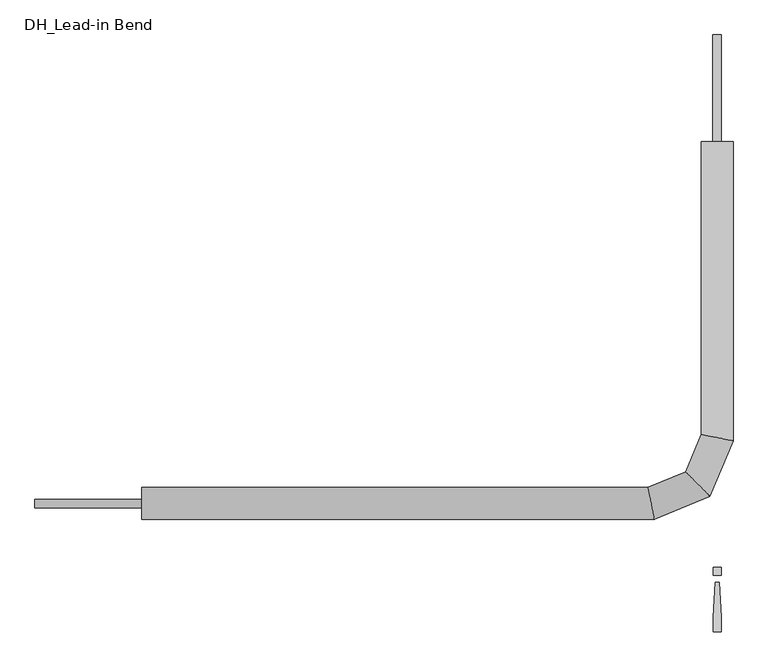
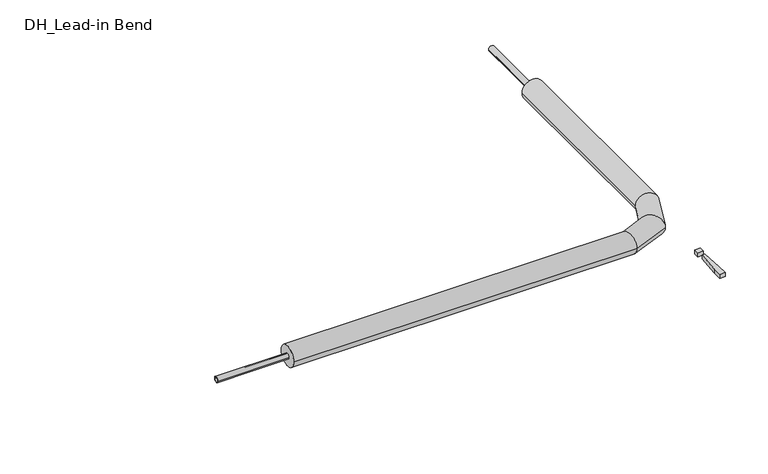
"""IFC4 building model written with IfcOpenShell, lengths in millimetres: pipe fitting geometry, DH_Lead-in Bend : RVT/RVX/RTX UNO 7.4 DW."""

from ifc_helpers import new_model, si_unit, point, frame, origin, origin_with_axes, origin_2d, place, context, project, spatial, polyline, circle_curve, ellipse_curve, trimmed, segment, composite_curve, outline, extrude, source, transform, mapped, element, save
from ifc_brep_helpers import plane_surface, cylinder_surface, advanced_brep


def dh_lead_in_bend_4b752211(model_context):
    return source(origin(), model_context, "Body", "SolidModel", [
        advanced_brep(
        [(-1350.0, -37.5, 0.0), (-1350.0, 37.5, 0.0), (-147.5407862, -37.5, 0.0), (-162.4592138, 37.5, 0.0), (37.5, 850.0, 0.0), (-37.5, 850.0, 0.0), (-37.5, 162.4592138, 0.0), (37.5, 147.5407862, 0.0), (-16.6971915, 16.6971915, 0.0), (-74.0997063, 74.0997063, 0.0)],
        [
            (0, 1, circle_curve(frame((-1350.0, 0.0, 0.0), z_axis=(-1.0, 0.0, 0.0), x_axis=(0.0, 1.0, 0.0)), 37.5)),
            (1, 0, circle_curve(frame((-1350.0, 0.0, 0.0), z_axis=(-1.0, 0.0, 0.0), x_axis=(0.0, 1.0, 0.0)), 37.5)),
            (0, 2),
            (2, 3, ellipse_curve(frame((-155.0, 0.0, 0.0), z_axis=(-0.9807852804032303, -0.19509032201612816, 0.0), x_axis=(-0.19509032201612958, 0.9807852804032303, 0.0)), 38.2346684, 37.5)),
            (3, 1),
            (3, 2, ellipse_curve(frame((-155.0, 0.0, 0.0), z_axis=(-0.9807852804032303, -0.19509032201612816, 0.0), x_axis=(-0.19509032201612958, 0.9807852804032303, 0.0)), 38.2346684, 37.5)),
            (4, 5, circle_curve(frame((0.0, 850.0, 0.0), z_axis=(0.0, 1.0, 0.0), x_axis=(-1.0, 0.0, 0.0)), 37.5)),
            (5, 4, circle_curve(frame((0.0, 850.0, 0.0), z_axis=(0.0, 1.0, 0.0), x_axis=(-1.0, 0.0, 0.0)), 37.5)),
            (6, 7, ellipse_curve(frame((0.0, 155.0, 0.0), z_axis=(0.1950903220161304, 0.9807852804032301, 0.0), x_axis=(0.9807852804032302, -0.1950903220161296, 0.0)), 38.2346684, 37.5)),
            (7, 4),
            (5, 6),
            (7, 6, ellipse_curve(frame((0.0, 155.0, 0.0), z_axis=(0.1950903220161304, 0.9807852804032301, 0.0), x_axis=(0.9807852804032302, -0.1950903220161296, 0.0)), 38.2346684, 37.5)),
            (2, 8),
            (8, 9, ellipse_curve(frame((-45.3984489, 45.3984489, 0.0), z_axis=(-0.707106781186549, -0.7071067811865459, 0.0), x_axis=(-0.7071067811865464, 0.7071067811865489, 0.0)), 40.5897075, 37.5)),
            (9, 3),
            (9, 8, ellipse_curve(frame((-45.3984489, 45.3984489, 0.0), z_axis=(-0.707106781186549, -0.7071067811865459, 0.0), x_axis=(-0.7071067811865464, 0.7071067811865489, 0.0)), 40.5897075, 37.5)),
            (8, 7),
            (6, 9),
        ],
        [
            plane_surface(frame((-1350.0, 0.0, 0.0), z_axis=(-1.0, 0.0, 0.0), x_axis=(0.0, 0.0, 1.0))),
            cylinder_surface(frame((-1350.0, 0.0, 0.0), z_axis=(-1.0, 0.0, 0.0), x_axis=(0.0, 1.0, 0.0)), 37.5),
            plane_surface(frame((0.0, 850.0, 0.0), z_axis=(0.0, 1.0, 0.0), x_axis=(0.0, 0.0, 1.0))),
            cylinder_surface(frame((0.0, 155.0, 0.0), z_axis=(0.0, -1.0, 0.0), x_axis=(-1.0, 0.0, 0.0)), 37.5),
            cylinder_surface(frame((-155.0, 0.0, 0.0), z_axis=(-0.9238795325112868, -0.38268343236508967, 0.0), x_axis=(-0.38268343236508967, 0.9238795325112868, 0.0)), 37.5),
            cylinder_surface(frame((-45.3984489, 45.3984489, 0.0), z_axis=(-0.3826834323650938, -0.9238795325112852, 0.0), x_axis=(-0.9238795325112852, 0.3826834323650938, 0.0)), 37.5),
        ],
        [
            (0, [[1, 2]]),
            (1, [[-1, 3, 4, 5]]),
            (1, [[-2, -5, 6, -3]]),
            (2, [[7, 8]]),
            (3, [[9, 10, -8, 11]]),
            (3, [[12, -11, -7, -10]]),
            (4, [[-4, 13, 14, 15]]),
            (4, [[-6, -15, 16, -13]]),
            (5, [[-14, 17, -9, 18]]),
            (5, [[-16, -18, -12, -17]]),
        ],
    ),
        extrude(outline(polyline([(4.7088895, -185.3166715), (9.4177791, -266.6553807), (9.4177791, -300.6844652), (-9.4177791, -300.6844652), (-9.4177791, -266.6553807), (-4.7088895, -185.3166715), (4.7088895, -185.3166715)])), origin_with_axes(), (0.0, 0.0, 1.0), 15.0),
        extrude(outline(polyline([(9.4177791, -150.0), (9.4177791, -168.8355582), (-9.4177791, -168.8355582), (-9.4177791, -150.0), (9.4177791, -150.0)])), origin_with_axes(), (0.0, 0.0, 1.0), 15.0),
        extrude(outline(composite_curve([segment(trimmed(circle_curve(origin_2d(), 10.0), [point((-10.0, 0.0))], [point((10.0, 0.0))], False, "CARTESIAN"), True, "CONTINUOUS"), segment(trimmed(circle_curve(origin_2d(), 10.0), [point((10.0, 0.0))], [point((-10.0, 0.0))], False, "CARTESIAN"), True, "CONTINUOUS")], self_intersect=False), holes=[composite_curve([segment(trimmed(circle_curve(origin_2d(), 7.2), [point((-7.2, 0.0))], [point((7.2, 0.0))], True, "CARTESIAN"), True, "CONTINUOUS"), segment(trimmed(circle_curve(origin_2d(), 7.2), [point((7.2, 0.0))], [point((-7.2, 0.0))], True, "CARTESIAN"), True, "CONTINUOUS")], self_intersect=False)]), frame((-1600.0, 0.0, 0.0), z_axis=(1.0, 0.0, 0.0), x_axis=(0.0, 1.0, 0.0)), (0.0, 0.0, 1.0), 250.0),
        extrude(outline(composite_curve([segment(trimmed(circle_curve(origin_2d(), 10.0), [point((0.0, 10.0))], [point((0.0, -10.0))], False, "CARTESIAN"), True, "CONTINUOUS"), segment(trimmed(circle_curve(origin_2d(), 10.0), [point((0.0, -10.0))], [point((0.0, 10.0))], False, "CARTESIAN"), True, "CONTINUOUS")], self_intersect=False), holes=[composite_curve([segment(trimmed(circle_curve(origin_2d(), 7.2), [point((0.0, 7.2))], [point((0.0, -7.2))], True, "CARTESIAN"), True, "CONTINUOUS"), segment(trimmed(circle_curve(origin_2d(), 7.2), [point((0.0, -7.2))], [point((0.0, 7.2))], True, "CARTESIAN"), True, "CONTINUOUS")], self_intersect=False)]), frame((0.0, 850.0, 0.0), z_axis=(0.0, 1.0, 0.0), x_axis=(0.0, 0.0, 1.0)), (0.0, 0.0, 1.0), 250.0),
    ])


if __name__ == "__main__":
    model = new_model("IFC4")
    model_context = context("Model", 3, world=origin())
    ifc_project = project(units=[si_unit("LENGTHUNIT", "METRE", prefix="MILLI")], contexts=[model_context])
    site = spatial("IfcSite", under=ifc_project)
    building = spatial("IfcBuilding", under=site)
    placement = place(None, origin())
    dh_lead_in_bend_shape = dh_lead_in_bend_4b752211(model_context)
    element("IfcPipeFitting", 1, ObjectType="DH_Lead-in Bend : RVT/RVX/RTX UNO 7.4 DW", at=placement, inside=building, context=model_context, shape_type="MappedRepresentation", body=[
        mapped(dh_lead_in_bend_shape, transform((0.0, 0.0, 0.0), x_axis=(1.0, 0.0, 0.0), y_axis=(0.0, 1.0, 0.0), z_axis=(0.0, 0.0, 1.0))),
    ])
    save(model, "model.ifc")
